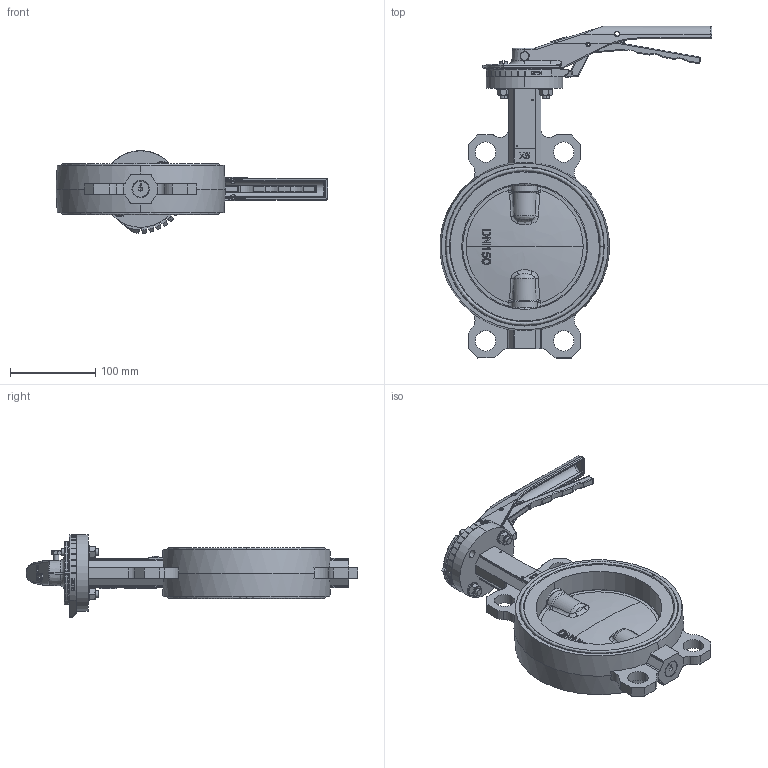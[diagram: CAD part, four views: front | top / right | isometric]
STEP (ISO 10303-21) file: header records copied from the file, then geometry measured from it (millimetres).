
FILE_DESCRIPTION (( 'STEP AP203' ), '1' );
FILE_NAME ('VPI-02 DN150.step', '2016-09-29T12:53:10', ( 'TECOFI' ), ( '' ), 'SwSTEP 2.0', 'SolidWorks 2014', '' );
FILE_SCHEMA (( 'CONFIG_CONTROL_DESIGN' ));
Products named in the file (1): VPI-02 DN150
Bounding box: 319.39 x 390 x 96.92 mm (x, y, z)
Volume: 1390041.7 mm3; surface area: 278719.7 mm2
Topology: 17 solids, 17 shells, 1575 faces, 4107 edges, 2586 vertices
Faces by surface type: plane 588, cylinder 442, bspline 335, cone 115, torus 55, sphere 40
Entity records: 67170 total; most frequent: CARTESIAN_POINT 31398, ORIENTED_EDGE 8106, DIRECTION 6525, EDGE_CURVE 4053, VERTEX_POINT 2578, AXIS2_PLACEMENT_3D 2332, VECTOR 1861, LINE 1861
